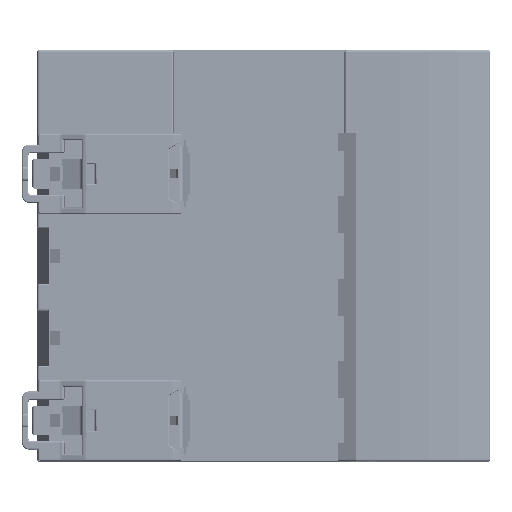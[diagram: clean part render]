
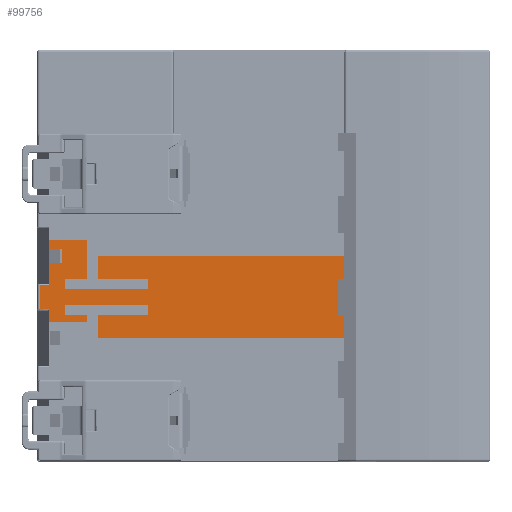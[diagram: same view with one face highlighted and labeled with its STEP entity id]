
A CAD part, top view. The second image highlights one B-rep face of the part: STEP entity #99756.
In plain terms, the highlighted planar face has unit normal (0, 0, 1).
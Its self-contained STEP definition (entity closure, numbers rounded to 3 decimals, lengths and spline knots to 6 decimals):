
#75820=DIRECTION('',(0.,1.,0.));
#75821=VECTOR('',#75820,0.005);
#75822=CARTESIAN_POINT('',(0.0132,0.0395,-0.0055));
#75823=LINE('',#75822,#75821);
#75852=DIRECTION('',(0.,-1.,0.));
#75853=VECTOR('',#75852,0.0085);
#75854=CARTESIAN_POINT('',(0.0107,0.048,-0.0055));
#75855=LINE('',#75854,#75853);
#75864=DIRECTION('',(-1.,0.,0.));
#75865=VECTOR('',#75864,0.0533);
#75866=CARTESIAN_POINT('',(0.0665,0.0445,-0.0055));
#75867=LINE('',#75866,#75865);
#75868=DIRECTION('',(0.,-1.,0.));
#75869=VECTOR('',#75868,0.003);
#75870=CARTESIAN_POINT('',(0.0027,0.046,-0.0055));
#75871=LINE('',#75870,#75869);
#75872=DIRECTION('',(1.,0.,0.));
#75873=VECTOR('',#75872,0.0027);
#75874=CARTESIAN_POINT('',(0.0027,0.043,-0.0055));
#75875=LINE('',#75874,#75873);
#75904=DIRECTION('',(0.,1.,0.));
#75905=VECTOR('',#75904,0.003);
#75906=CARTESIAN_POINT('',(0.0054,0.043,-0.0055));
#75907=LINE('',#75906,#75905);
#75912=DIRECTION('',(-1.,0.,0.));
#75913=VECTOR('',#75912,0.0027);
#75914=CARTESIAN_POINT('',(0.0054,0.046,-0.0055));
#75915=LINE('',#75914,#75913);
#75928=DIRECTION('',(0.,1.,0.));
#75929=VECTOR('',#75928,0.001);
#75930=CARTESIAN_POINT('',(0.0239,0.0385,-0.0055));
#75931=LINE('',#75930,#75929);
#75948=DIRECTION('',(1.,0.,0.));
#75949=VECTOR('',#75948,0.0179);
#75950=CARTESIAN_POINT('',(0.006,0.0385,-0.0055));
#75951=LINE('',#75950,#75949);
#75960=DIRECTION('',(0.,-1.,0.));
#75961=VECTOR('',#75960,0.001);
#75962=CARTESIAN_POINT('',(0.006,0.0395,-0.0055));
#75963=LINE('',#75962,#75961);
#75980=DIRECTION('',(-1.,0.,0.));
#75981=VECTOR('',#75980,0.0047);
#75982=CARTESIAN_POINT('',(0.0107,0.0395,-0.0055));
#75983=LINE('',#75982,#75981);
#75984=DIRECTION('',(-1.,0.,0.));
#75985=VECTOR('',#75984,0.0107);
#75986=CARTESIAN_POINT('',(0.0239,0.0395,-0.0055));
#75987=LINE('',#75986,#75985);
#76051=DIRECTION('',(0.,-1.,0.));
#76052=VECTOR('',#76051,0.0178);
#76053=CARTESIAN_POINT('',(0.0665,0.0445,-0.0055));
#76054=LINE('',#76053,#76052);
#80473=DIRECTION('',(1.,0.,0.));
#80474=VECTOR('',#80473,0.0082);
#80475=CARTESIAN_POINT('',(0.0025,0.048,-0.0055));
#80476=LINE('',#80475,#80474);
#80518=DIRECTION('',(0.,1.,0.));
#80519=VECTOR('',#80518,0.0098);
#80520=CARTESIAN_POINT('',(0.0025,0.0382,-0.0055));
#80521=LINE('',#80520,#80519);
#80605=DIRECTION('',(1.,0.,0.));
#80606=VECTOR('',#80605,0.002);
#80607=CARTESIAN_POINT('',(0.0005,0.0382,-0.0055));
#80608=LINE('',#80607,#80606);
#80617=DIRECTION('',(0.,1.,0.));
#80618=VECTOR('',#80617,0.0052);
#80619=CARTESIAN_POINT('',(0.0005,0.033,-0.0055));
#80620=LINE('',#80619,#80618);
#80653=DIRECTION('',(0.,1.,0.));
#80654=VECTOR('',#80653,0.0028);
#80655=CARTESIAN_POINT('',(0.0025,0.0302,-0.0055));
#80656=LINE('',#80655,#80654);
#80680=DIRECTION('',(-1.,0.,0.));
#80681=VECTOR('',#80680,0.002);
#80682=CARTESIAN_POINT('',(0.0025,0.033,-0.0055));
#80683=LINE('',#80682,#80681);
#80712=DIRECTION('',(-1.,0.,0.));
#80713=VECTOR('',#80712,0.0082);
#80714=CARTESIAN_POINT('',(0.0107,0.0302,-0.0055));
#80715=LINE('',#80714,#80713);
#83285=DIRECTION('',(-1.,0.,0.));
#83286=VECTOR('',#83285,0.0533);
#83287=CARTESIAN_POINT('',(0.0665,0.0267,-0.0055));
#83288=LINE('',#83287,#83286);
#83370=DIRECTION('',(0.,1.,0.));
#83371=VECTOR('',#83370,0.005);
#83372=CARTESIAN_POINT('',(0.0132,0.0267,-0.0055));
#83373=LINE('',#83372,#83371);
#83398=DIRECTION('',(0.,-1.,0.));
#83399=VECTOR('',#83398,0.0015);
#83400=CARTESIAN_POINT('',(0.0107,0.0317,-0.0055));
#83401=LINE('',#83400,#83399);
#83530=DIRECTION('',(1.,0.,0.));
#83531=VECTOR('',#83530,0.0107);
#83532=CARTESIAN_POINT('',(0.0132,0.0317,-0.0055));
#83533=LINE('',#83532,#83531);
#83542=DIRECTION('',(1.,0.,0.));
#83543=VECTOR('',#83542,0.0047);
#83544=CARTESIAN_POINT('',(0.006,0.0317,-0.0055));
#83545=LINE('',#83544,#83543);
#83566=DIRECTION('',(0.,1.,0.));
#83567=VECTOR('',#83566,0.001);
#83568=CARTESIAN_POINT('',(0.0239,0.0317,-0.0055));
#83569=LINE('',#83568,#83567);
#83586=DIRECTION('',(0.,-1.,0.));
#83587=VECTOR('',#83586,0.001);
#83588=CARTESIAN_POINT('',(0.006,0.0327,-0.0055));
#83589=LINE('',#83588,#83587);
#83594=DIRECTION('',(-1.,0.,0.));
#83595=VECTOR('',#83594,0.0179);
#83596=CARTESIAN_POINT('',(0.0239,0.0327,-0.0055));
#83597=LINE('',#83596,#83595);
#90371=CARTESIAN_POINT('',(0.0665,0.0445,-0.0055));
#90372=CARTESIAN_POINT('',(0.0132,0.0445,-0.0055));
#90373=VERTEX_POINT('',#90371);
#90374=VERTEX_POINT('',#90372);
#90419=CARTESIAN_POINT('',(0.0239,0.0395,-0.0055));
#90420=CARTESIAN_POINT('',(0.0132,0.0395,-0.0055));
#90421=VERTEX_POINT('',#90419);
#90422=VERTEX_POINT('',#90420);
#90423=CARTESIAN_POINT('',(0.0665,0.0267,-0.0055));
#90424=VERTEX_POINT('',#90423);
#90425=CARTESIAN_POINT('',(0.0132,0.0267,-0.0055));
#90426=VERTEX_POINT('',#90425);
#90427=CARTESIAN_POINT('',(0.0132,0.0317,-0.0055));
#90428=VERTEX_POINT('',#90427);
#90429=CARTESIAN_POINT('',(0.0239,0.0317,-0.0055));
#90430=VERTEX_POINT('',#90429);
#90431=CARTESIAN_POINT('',(0.0239,0.0327,-0.0055));
#90432=VERTEX_POINT('',#90431);
#90433=CARTESIAN_POINT('',(0.006,0.0327,-0.0055));
#90434=VERTEX_POINT('',#90433);
#90435=CARTESIAN_POINT('',(0.006,0.0317,-0.0055));
#90436=VERTEX_POINT('',#90435);
#90437=CARTESIAN_POINT('',(0.0107,0.0317,-0.0055));
#90438=VERTEX_POINT('',#90437);
#90439=CARTESIAN_POINT('',(0.0107,0.0302,-0.0055));
#90440=VERTEX_POINT('',#90439);
#90441=CARTESIAN_POINT('',(0.0025,0.0302,-0.0055));
#90442=VERTEX_POINT('',#90441);
#90443=CARTESIAN_POINT('',(0.0025,0.033,-0.0055));
#90444=VERTEX_POINT('',#90443);
#90445=CARTESIAN_POINT('',(0.0005,0.033,-0.0055));
#90446=VERTEX_POINT('',#90445);
#90447=CARTESIAN_POINT('',(0.0005,0.0382,-0.0055));
#90448=VERTEX_POINT('',#90447);
#90449=CARTESIAN_POINT('',(0.0025,0.0382,-0.0055));
#90450=VERTEX_POINT('',#90449);
#90451=CARTESIAN_POINT('',(0.0025,0.048,-0.0055));
#90452=VERTEX_POINT('',#90451);
#90453=CARTESIAN_POINT('',(0.0107,0.048,-0.0055));
#90454=VERTEX_POINT('',#90453);
#90455=CARTESIAN_POINT('',(0.0107,0.0395,-0.0055));
#90456=VERTEX_POINT('',#90455);
#90457=CARTESIAN_POINT('',(0.006,0.0395,-0.0055));
#90458=VERTEX_POINT('',#90457);
#90459=CARTESIAN_POINT('',(0.006,0.0385,-0.0055));
#90460=VERTEX_POINT('',#90459);
#90461=CARTESIAN_POINT('',(0.0239,0.0385,-0.0055));
#90462=VERTEX_POINT('',#90461);
#90463=CARTESIAN_POINT('',(0.0027,0.043,-0.0055));
#90464=CARTESIAN_POINT('',(0.0054,0.043,-0.0055));
#90465=VERTEX_POINT('',#90463);
#90466=VERTEX_POINT('',#90464);
#90467=CARTESIAN_POINT('',(0.0054,0.046,-0.0055));
#90468=VERTEX_POINT('',#90467);
#90469=CARTESIAN_POINT('',(0.0027,0.046,-0.0055));
#90470=VERTEX_POINT('',#90469);
#99693=CARTESIAN_POINT('',(0.0041,0.0356,-0.0055));
#99694=DIRECTION('',(0.,0.,1.));
#99695=DIRECTION('',(1.,0.,0.));
#99696=AXIS2_PLACEMENT_3D('',#99693,#99694,#99695);
#99697=PLANE('',#99696);
#99699=ORIENTED_EDGE('',*,*,#99698,.T.);
#99701=ORIENTED_EDGE('',*,*,#99700,.T.);
#99702=ORIENTED_EDGE('',*,*,#99629,.T.);
#99704=ORIENTED_EDGE('',*,*,#99703,.F.);
#99706=ORIENTED_EDGE('',*,*,#99705,.T.);
#99708=ORIENTED_EDGE('',*,*,#99707,.T.);
#99710=ORIENTED_EDGE('',*,*,#99709,.T.);
#99712=ORIENTED_EDGE('',*,*,#99711,.T.);
#99714=ORIENTED_EDGE('',*,*,#99713,.T.);
#99716=ORIENTED_EDGE('',*,*,#99715,.T.);
#99718=ORIENTED_EDGE('',*,*,#99717,.T.);
#99720=ORIENTED_EDGE('',*,*,#99719,.T.);
#99722=ORIENTED_EDGE('',*,*,#99721,.T.);
#99724=ORIENTED_EDGE('',*,*,#99723,.T.);
#99726=ORIENTED_EDGE('',*,*,#99725,.T.);
#99728=ORIENTED_EDGE('',*,*,#99727,.T.);
#99730=ORIENTED_EDGE('',*,*,#99729,.T.);
#99732=ORIENTED_EDGE('',*,*,#99731,.T.);
#99734=ORIENTED_EDGE('',*,*,#99733,.T.);
#99736=ORIENTED_EDGE('',*,*,#99735,.T.);
#99737=ORIENTED_EDGE('',*,*,#99674,.T.);
#99739=ORIENTED_EDGE('',*,*,#99738,.T.);
#99741=ORIENTED_EDGE('',*,*,#99740,.T.);
#99743=ORIENTED_EDGE('',*,*,#99742,.T.);
#99744=EDGE_LOOP('',(#99699,#99701,#99702,#99704,#99706,#99708,#99710,#99712,
#99714,#99716,#99718,#99720,#99722,#99724,#99726,#99728,#99730,#99732,#99734,
#99736,#99737,#99739,#99741,#99743));
#99745=FACE_OUTER_BOUND('',#99744,.F.);
#99747=ORIENTED_EDGE('',*,*,#99746,.T.);
#99749=ORIENTED_EDGE('',*,*,#99748,.T.);
#99751=ORIENTED_EDGE('',*,*,#99750,.T.);
#99753=ORIENTED_EDGE('',*,*,#99752,.T.);
#99754=EDGE_LOOP('',(#99747,#99749,#99751,#99753));
#99755=FACE_BOUND('',#99754,.F.);
#99756=ADVANCED_FACE('',(#99745,#99755),#99697,.T.);
#99629=EDGE_CURVE('',#90422,#90374,#75823,.T.);
#99674=EDGE_CURVE('',#90454,#90456,#75855,.T.);
#99698=EDGE_CURVE('',#90462,#90421,#75931,.T.);
#99700=EDGE_CURVE('',#90421,#90422,#75987,.T.);
#99703=EDGE_CURVE('',#90373,#90374,#75867,.T.);
#99705=EDGE_CURVE('',#90373,#90424,#76054,.T.);
#99707=EDGE_CURVE('',#90424,#90426,#83288,.T.);
#99709=EDGE_CURVE('',#90426,#90428,#83373,.T.);
#99711=EDGE_CURVE('',#90428,#90430,#83533,.T.);
#99713=EDGE_CURVE('',#90430,#90432,#83569,.T.);
#99715=EDGE_CURVE('',#90432,#90434,#83597,.T.);
#99717=EDGE_CURVE('',#90434,#90436,#83589,.T.);
#99719=EDGE_CURVE('',#90436,#90438,#83545,.T.);
#99721=EDGE_CURVE('',#90438,#90440,#83401,.T.);
#99723=EDGE_CURVE('',#90440,#90442,#80715,.T.);
#99725=EDGE_CURVE('',#90442,#90444,#80656,.T.);
#99727=EDGE_CURVE('',#90444,#90446,#80683,.T.);
#99729=EDGE_CURVE('',#90446,#90448,#80620,.T.);
#99731=EDGE_CURVE('',#90448,#90450,#80608,.T.);
#99733=EDGE_CURVE('',#90450,#90452,#80521,.T.);
#99735=EDGE_CURVE('',#90452,#90454,#80476,.T.);
#99738=EDGE_CURVE('',#90456,#90458,#75983,.T.);
#99740=EDGE_CURVE('',#90458,#90460,#75963,.T.);
#99742=EDGE_CURVE('',#90460,#90462,#75951,.T.);
#99746=EDGE_CURVE('',#90470,#90465,#75871,.T.);
#99748=EDGE_CURVE('',#90465,#90466,#75875,.T.);
#99750=EDGE_CURVE('',#90466,#90468,#75907,.T.);
#99752=EDGE_CURVE('',#90468,#90470,#75915,.T.);
